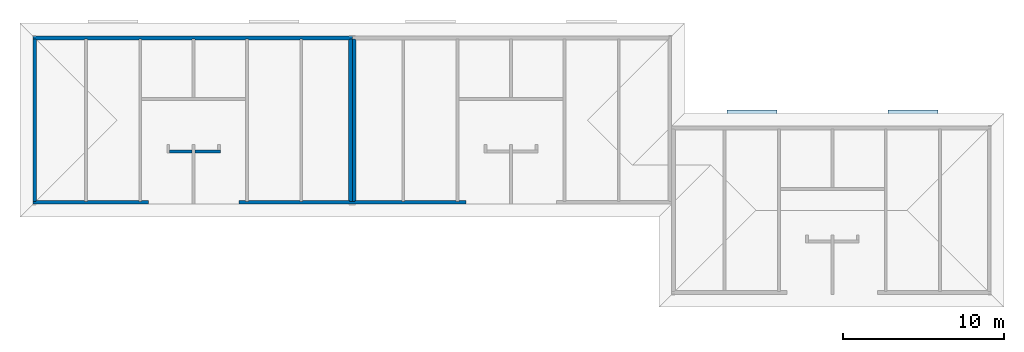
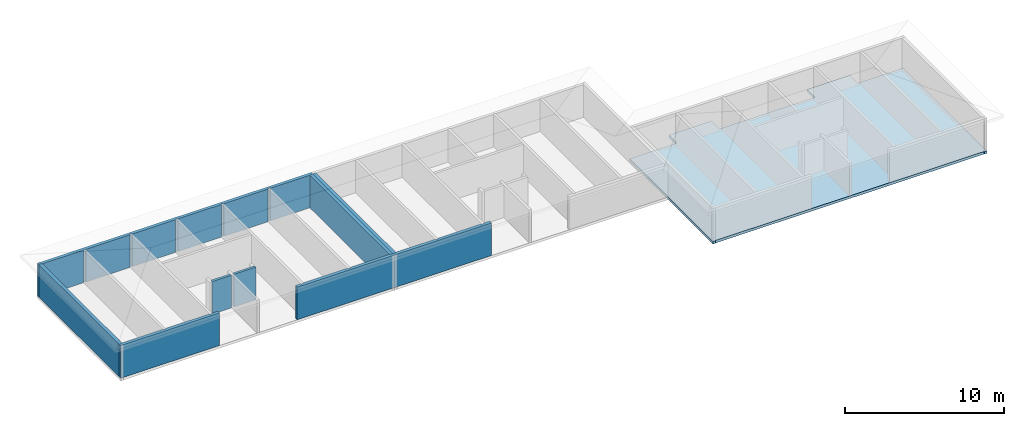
# One storey, part 8 of 10: 8 walls, 1 slab.
"""IFC2X3 building model written with IfcOpenShell, lengths in metres."""

from ifc_helpers import new_model, si_unit, frame, origin, place, context, project, spatial, faceted_brep, element, save


model = new_model("IFC2X3")

# Units and contexts
model_context = context("Model", 3, precision=1e-06, world=origin())
ifc_project = project(units=[si_unit("LENGTHUNIT", "METRE"), si_unit("PLANEANGLEUNIT", "RADIAN")], contexts=[model_context])

# Site, building, storey
site = spatial("IfcSite", under=ifc_project, CompositionType="ELEMENT")
building = spatial("IfcBuilding", under=site, CompositionType="ELEMENT")
storey = spatial("IfcBuildingStorey", under=building, Name="r+3", CompositionType="ELEMENT", Elevation=8.1)

# Slab
placement = place(None, origin())
slab_placement = place(placement, frame((39.69999999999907, -5.599999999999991, 7.9), z_axis=(0.0, 0.0, 1.0), x_axis=(1.0, 0.0, 0.0)))
element("IfcSlab", 1, at=slab_placement, inside=storey, PredefinedType="USERDEFINED", context=model_context, shape_type="Brep", body=[
    faceted_brep([(0.18, 10.47007776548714, 0.2), (3.430000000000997, 10.470077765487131, 0.2), (3.430000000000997, 10.470077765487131, 0.0), (0.18, 10.47007776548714, 0.0), (3.430000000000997, 10.470077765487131, 0.2), (3.430000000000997, 11.47007775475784, 0.2), (3.430000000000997, 11.47007775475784, 0.0), (3.430000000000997, 10.470077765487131, 0.0), (3.430000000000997, 11.47007775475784, 0.2), (6.530000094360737, 11.47007760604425, 0.2), (6.530000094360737, 11.47007760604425, 0.0), (3.430000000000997, 11.47007775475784, 0.0), (6.530000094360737, 11.47007760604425, 0.2), (6.530000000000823, 10.47007768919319, 0.2), (6.530000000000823, 10.47007768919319, 0.0), (6.530000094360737, 11.47007760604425, 0.0), (6.530000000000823, 10.47007768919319, 0.2), (13.44000000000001, 10.47007775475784, 0.2), (13.44000000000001, 10.47007775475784, 0.0), (6.530000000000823, 10.47007768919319, 0.0), (13.44000000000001, 10.47007775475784, 0.2), (13.439598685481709, 11.47007760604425, 0.2), (13.439598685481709, 11.47007760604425, 0.0), (13.44000000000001, 10.47007775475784, 0.0), (13.439598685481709, 11.47007760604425, 0.2), (16.539598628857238, 11.47007760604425, 0.2), (16.539598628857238, 11.47007760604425, 0.0), (13.439598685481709, 11.47007760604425, 0.0), (16.539598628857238, 11.47007760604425, 0.2), (16.53999999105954, 10.47007768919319, 0.2), (16.53999999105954, 10.47007768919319, 0.0), (16.539598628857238, 11.47007760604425, 0.0), (16.53999999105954, 10.47007768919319, 0.2), (19.669999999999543, 10.470077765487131, 0.2), (19.669999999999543, 10.470077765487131, 0.0), (16.53999999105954, 10.47007768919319, 0.0), (19.669999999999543, 10.470077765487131, 0.2), (19.669999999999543, 10.49007776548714, 0.2), (19.669999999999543, 10.49007776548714, 0.0), (19.669999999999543, 10.470077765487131, 0.0), (19.669999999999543, 10.49007776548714, 0.2), (19.849999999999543, 10.49007776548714, 0.2), (19.849999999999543, 10.49007776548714, 0.0), (19.669999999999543, 10.49007776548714, 0.0), (19.849999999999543, 10.49007776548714, 0.2), (19.849999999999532, 2e-15, 0.2), (19.849999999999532, 2e-15, 0.0), (19.849999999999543, 10.49007776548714, 0.0), (19.849999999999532, 2e-15, 0.2), (19.669999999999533, 2e-15, 0.2), (19.669999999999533, 2e-15, 0.0), (19.849999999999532, 2e-15, 0.0), (19.669999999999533, 2e-15, 0.2), (19.669999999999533, 0.02016279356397, 0.2), (19.669999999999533, 0.02016279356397, 0.0), (19.669999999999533, 2e-15, 0.0), (19.669999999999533, 0.02016279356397, 0.2), (13.04500000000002, 0.02016279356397, 0.2), (13.04500000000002, 0.02016279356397, 0.0), (19.669999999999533, 0.02016279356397, 0.0), (13.04500000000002, 0.02016279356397, 0.2), (6.925000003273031, 0.020077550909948, 0.2), (6.925000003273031, 0.020077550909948, 0.0), (13.04500000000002, 0.02016279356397, 0.0), (6.925000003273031, 0.020077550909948, 0.2), (0.18, 0.020077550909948, 0.2), (0.18, 0.020077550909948, 0.0), (6.925000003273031, 0.020077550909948, 0.0), (0.18, 0.020077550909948, 0.2), (0.18, 0.0, 0.2), (0.18, 0.0, 0.0), (0.18, 0.020077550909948, 0.0), (0.18, 0.0, 0.2), (0.0, 0.0, 0.2), (0.0, 0.0, 0.0), (0.18, 0.0, 0.0), (0.0, 0.0, 0.2), (7e-15, 10.47007776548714, 0.2), (7e-15, 10.47007776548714, 0.0), (0.0, 0.0, 0.0), (7e-15, 10.47007776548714, 0.2), (0.18, 10.47007776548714, 0.2), (0.18, 10.47007776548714, 0.0), (7e-15, 10.47007776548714, 0.0), (0.18, 10.47007776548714, 0.2), (7e-15, 10.47007776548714, 0.2), (0.0, 0.0, 0.2), (0.18, 0.0, 0.2), (0.18, 0.020077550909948, 0.2), (6.925000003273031, 0.020077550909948, 0.2), (13.04500000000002, 0.02016279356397, 0.2), (19.669999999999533, 0.02016279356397, 0.2), (19.669999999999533, 2e-15, 0.2), (19.849999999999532, 2e-15, 0.2), (19.849999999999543, 10.49007776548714, 0.2), (19.669999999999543, 10.49007776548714, 0.2), (19.669999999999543, 10.470077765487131, 0.2), (16.53999999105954, 10.47007768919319, 0.2), (16.539598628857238, 11.47007760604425, 0.2), (13.439598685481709, 11.47007760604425, 0.2), (13.44000000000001, 10.47007775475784, 0.2), (6.530000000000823, 10.47007768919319, 0.2), (6.530000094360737, 11.47007760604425, 0.2), (3.430000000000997, 11.47007775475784, 0.2), (3.430000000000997, 10.470077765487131, 0.2), (0.18, 10.47007776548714, 0.0), (3.430000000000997, 10.470077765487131, 0.0), (3.430000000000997, 11.47007775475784, 0.0), (6.530000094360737, 11.47007760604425, 0.0), (6.530000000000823, 10.47007768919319, 0.0), (13.44000000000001, 10.47007775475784, 0.0), (13.439598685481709, 11.47007760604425, 0.0), (16.539598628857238, 11.47007760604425, 0.0), (16.53999999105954, 10.47007768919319, 0.0), (19.669999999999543, 10.470077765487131, 0.0), (19.669999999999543, 10.49007776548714, 0.0), (19.849999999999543, 10.49007776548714, 0.0), (19.849999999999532, 2e-15, 0.0), (19.669999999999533, 2e-15, 0.0), (19.669999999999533, 0.02016279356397, 0.0), (13.04500000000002, 0.02016279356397, 0.0), (6.925000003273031, 0.020077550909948, 0.0), (0.18, 0.020077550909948, 0.0), (0.18, 0.0, 0.0), (0.0, 0.0, 0.0), (7e-15, 10.47007776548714, 0.0)], [[[0, 1, 2, 3]], [[4, 5, 6, 7]], [[8, 9, 10, 11]], [[12, 13, 14, 15]], [[16, 17, 18, 19]], [[20, 21, 22, 23]], [[24, 25, 26, 27]], [[28, 29, 30, 31]], [[32, 33, 34, 35]], [[36, 37, 38, 39]], [[40, 41, 42, 43]], [[44, 45, 46, 47]], [[48, 49, 50, 51]], [[52, 53, 54, 55]], [[56, 57, 58, 59]], [[60, 61, 62, 63]], [[64, 65, 66, 67]], [[68, 69, 70, 71]], [[72, 73, 74, 75]], [[76, 77, 78, 79]], [[80, 81, 82, 83]], [[84, 85, 86, 87, 88, 89, 90, 91, 92, 93, 94, 95, 96, 97, 98, 99, 100, 101, 102, 103, 104]], [[105, 106, 107, 108, 109, 110, 111, 112, 113, 114, 115, 116, 117, 118, 119, 120, 121, 122, 123, 124, 125]]]),
])

# Walls
wall_1_placement = place(placement, frame((-6e-15, 0.020077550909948, 8.1), z_axis=(0.0, 0.0, 1.0), x_axis=(1.0, 0.0, 0.0)))
element("IfcWall", 2, at=wall_1_placement, inside=storey, context=model_context, shape_type="Brep", body=[
    faceted_brep([(7.175000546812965, 0.0, 2.5), (0.0, 0.0, 2.5), (0.0, 0.0, 0.0), (7.175000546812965, 0.0, 0.0), (0.0, 0.0, 2.5), (0.0, 0.18, 2.5), (0.0, 0.18, 0.0), (0.0, 0.0, 0.0), (0.0, 0.18, 2.5), (0.18, 0.18, 2.5), (0.18, 0.18, 0.0), (0.0, 0.18, 0.0), (0.18, 0.18, 2.5), (0.18, 0.22, 2.5), (0.18, 0.22, 0.0), (0.18, 0.18, 0.0), (0.18, 0.22, 2.5), (0.22, 0.22, 2.5), (0.22, 0.22, 0.0), (0.18, 0.22, 0.0), (0.22, 0.22, 2.5), (0.22, 0.23, 2.5), (0.22, 0.23, 0.0), (0.22, 0.22, 0.0), (0.22, 0.23, 2.5), (3.200000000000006, 0.23, 2.5), (3.200000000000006, 0.23, 0.0), (0.22, 0.23, 0.0), (3.200000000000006, 0.23, 2.5), (3.200000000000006, 0.18, 2.5), (3.200000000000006, 0.18, 0.0), (3.200000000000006, 0.23, 0.0), (3.200000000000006, 0.18, 2.5), (3.380000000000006, 0.18, 2.5), (3.380000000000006, 0.18, 0.0), (3.200000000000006, 0.18, 0.0), (3.380000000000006, 0.18, 2.5), (3.380000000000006, 0.23, 2.5), (3.380000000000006, 0.23, 0.0), (3.380000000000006, 0.18, 0.0), (3.380000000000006, 0.23, 2.5), (6.580000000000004, 0.23, 2.5), (6.580000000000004, 0.23, 0.0), (3.380000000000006, 0.23, 0.0), (6.580000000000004, 0.23, 2.5), (6.580000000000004, 0.18, 2.5), (6.580000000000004, 0.18, 0.0), (6.580000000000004, 0.23, 0.0), (6.580000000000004, 0.18, 2.5), (6.760000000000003, 0.18, 2.5), (6.760000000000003, 0.18, 0.0), (6.580000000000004, 0.18, 0.0), (6.760000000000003, 0.18, 2.5), (6.760000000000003, 0.23, 2.5), (6.760000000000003, 0.23, 0.0), (6.760000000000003, 0.18, 0.0), (6.760000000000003, 0.23, 2.5), (7.175000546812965, 0.23, 2.5), (7.175000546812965, 0.23, 0.0), (6.760000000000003, 0.23, 0.0), (7.175000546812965, 0.23, 2.5), (7.175000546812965, 0.0, 2.5), (7.175000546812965, 0.0, 0.0), (7.175000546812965, 0.23, 0.0), (7.175000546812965, 0.0, 2.5), (7.175000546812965, 0.23, 2.5), (6.760000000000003, 0.23, 2.5), (6.760000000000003, 0.18, 2.5), (6.580000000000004, 0.18, 2.5), (6.580000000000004, 0.23, 2.5), (3.380000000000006, 0.23, 2.5), (3.380000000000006, 0.18, 2.5), (3.200000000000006, 0.18, 2.5), (3.200000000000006, 0.23, 2.5), (0.22, 0.23, 2.5), (0.22, 0.22, 2.5), (0.18, 0.22, 2.5), (0.18, 0.18, 2.5), (0.0, 0.18, 2.5), (0.0, 0.0, 2.5), (7.175000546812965, 0.0, 0.0), (0.0, 0.0, 0.0), (0.0, 0.18, 0.0), (0.18, 0.18, 0.0), (0.18, 0.22, 0.0), (0.22, 0.22, 0.0), (0.22, 0.23, 0.0), (3.200000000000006, 0.23, 0.0), (3.200000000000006, 0.18, 0.0), (3.380000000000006, 0.18, 0.0), (3.380000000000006, 0.23, 0.0), (6.580000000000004, 0.23, 0.0), (6.580000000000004, 0.18, 0.0), (6.760000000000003, 0.18, 0.0), (6.760000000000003, 0.23, 0.0), (7.175000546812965, 0.23, 0.0)], [[[0, 1, 2, 3]], [[4, 5, 6, 7]], [[8, 9, 10, 11]], [[12, 13, 14, 15]], [[16, 17, 18, 19]], [[20, 21, 22, 23]], [[24, 25, 26, 27]], [[28, 29, 30, 31]], [[32, 33, 34, 35]], [[36, 37, 38, 39]], [[40, 41, 42, 43]], [[44, 45, 46, 47]], [[48, 49, 50, 51]], [[52, 53, 54, 55]], [[56, 57, 58, 59]], [[60, 61, 62, 63]], [[64, 65, 66, 67, 68, 69, 70, 71, 72, 73, 74, 75, 76, 77, 78, 79]], [[80, 81, 82, 83, 84, 85, 86, 87, 88, 89, 90, 91, 92, 93, 94, 95]]]),
])
wall_2_placement = place(placement, frame((-4e-15, 10.29007776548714, 8.1), z_axis=(0.0, 0.0, 1.0), x_axis=(0.0, -1.0, 0.0)))
element("IfcWall", 3, at=wall_2_placement, inside=storey, context=model_context, shape_type="Brep", body=[
    faceted_brep([(0.04, 0.18, 2.5), (0.04, 0.22, 2.5), (0.04, 0.22, 0.0), (0.04, 0.18, 0.0), (0.04, 0.22, 2.5), (0.05, 0.22, 2.5), (0.05, 0.22, 0.0), (0.04, 0.22, 0.0), (0.05, 0.22, 2.5), (0.05, 0.23, 2.5), (0.05, 0.23, 0.0), (0.05, 0.22, 0.0), (0.05, 0.23, 2.5), (10.04000021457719, 0.23, 2.5), (10.04000021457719, 0.23, 0.0), (0.05, 0.23, 0.0), (10.04000021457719, 0.23, 2.5), (10.04000021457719, 0.22, 2.5), (10.04000021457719, 0.22, 0.0), (10.04000021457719, 0.23, 0.0), (10.04000021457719, 0.22, 2.5), (10.05000021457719, 0.22, 2.5), (10.05000021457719, 0.22, 0.0), (10.04000021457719, 0.22, 0.0), (10.05000021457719, 0.22, 2.5), (10.05000021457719, 0.18, 2.5), (10.05000021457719, 0.18, 0.0), (10.05000021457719, 0.22, 0.0), (10.05000021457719, 0.18, 2.5), (10.090000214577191, 0.18, 2.5), (10.090000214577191, 0.18, 0.0), (10.05000021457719, 0.18, 0.0), (10.090000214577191, 0.18, 2.5), (10.090000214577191, 0.0, 2.5), (10.090000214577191, 0.0, 0.0), (10.090000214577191, 0.18, 0.0), (10.090000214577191, 0.0, 2.5), (0.0, 0.0, 2.5), (0.0, 0.0, 0.0), (10.090000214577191, 0.0, 0.0), (0.0, 0.0, 2.5), (0.0, 0.18, 2.5), (0.0, 0.18, 0.0), (0.0, 0.0, 0.0), (0.0, 0.18, 2.5), (0.04, 0.18, 2.5), (0.04, 0.18, 0.0), (0.0, 0.18, 0.0), (0.04, 0.18, 2.5), (0.0, 0.18, 2.5), (0.0, 0.0, 2.5), (10.090000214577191, 0.0, 2.5), (10.090000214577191, 0.18, 2.5), (10.05000021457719, 0.18, 2.5), (10.05000021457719, 0.22, 2.5), (10.04000021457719, 0.22, 2.5), (10.04000021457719, 0.23, 2.5), (0.05, 0.23, 2.5), (0.05, 0.22, 2.5), (0.04, 0.22, 2.5), (0.04, 0.18, 0.0), (0.04, 0.22, 0.0), (0.05, 0.22, 0.0), (0.05, 0.23, 0.0), (10.04000021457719, 0.23, 0.0), (10.04000021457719, 0.22, 0.0), (10.05000021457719, 0.22, 0.0), (10.05000021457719, 0.18, 0.0), (10.090000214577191, 0.18, 0.0), (10.090000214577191, 0.0, 0.0), (0.0, 0.0, 0.0), (0.0, 0.18, 0.0)], [[[0, 1, 2, 3]], [[4, 5, 6, 7]], [[8, 9, 10, 11]], [[12, 13, 14, 15]], [[16, 17, 18, 19]], [[20, 21, 22, 23]], [[24, 25, 26, 27]], [[28, 29, 30, 31]], [[32, 33, 34, 35]], [[36, 37, 38, 39]], [[40, 41, 42, 43]], [[44, 45, 46, 47]], [[48, 49, 50, 51, 52, 53, 54, 55, 56, 57, 58, 59]], [[60, 61, 62, 63, 64, 65, 66, 67, 68, 69, 70, 71]]]),
])
wall_3_placement = place(placement, frame((19.849999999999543, 10.290077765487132, 8.1), z_axis=(0.0, 0.0, 1.0), x_axis=(0.0, -1.0, 0.0)))
element("IfcWall", 4, at=wall_3_placement, inside=storey, context=model_context, shape_type="Brep", body=[
    faceted_brep([(0.04, 0.18, 2.5), (0.04, 0.22, 2.5), (0.04, 0.22, 0.0), (0.04, 0.18, 0.0), (0.04, 0.22, 2.5), (0.05, 0.22, 2.5), (0.05, 0.22, 0.0), (0.04, 0.22, 0.0), (0.05, 0.22, 2.5), (0.05, 0.23, 2.5), (0.05, 0.23, 0.0), (0.05, 0.22, 0.0), (0.05, 0.23, 2.5), (10.03991497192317, 0.23, 2.5), (10.03991497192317, 0.23, 0.0), (0.05, 0.23, 0.0), (10.03991497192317, 0.23, 2.5), (10.03991497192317, 0.22, 2.5), (10.03991497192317, 0.22, 0.0), (10.03991497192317, 0.23, 0.0), (10.03991497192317, 0.22, 2.5), (10.04991497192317, 0.22, 2.5), (10.04991497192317, 0.22, 0.0), (10.03991497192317, 0.22, 0.0), (10.04991497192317, 0.22, 2.5), (10.04991497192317, 0.18, 2.5), (10.04991497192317, 0.18, 0.0), (10.04991497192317, 0.22, 0.0), (10.04991497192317, 0.18, 2.5), (10.08991497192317, 0.18, 2.5), (10.08991497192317, 0.18, 0.0), (10.04991497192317, 0.18, 0.0), (10.08991497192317, 0.18, 2.5), (10.08991497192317, 0.0, 2.5), (10.08991497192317, 0.0, 0.0), (10.08991497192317, 0.18, 0.0), (10.08991497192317, 0.0, 2.5), (0.0, 0.0, 2.5), (0.0, 0.0, 0.0), (10.08991497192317, 0.0, 0.0), (0.0, 0.0, 2.5), (0.0, 0.18, 2.5), (0.0, 0.18, 0.0), (0.0, 0.0, 0.0), (0.0, 0.18, 2.5), (0.04, 0.18, 2.5), (0.04, 0.18, 0.0), (0.0, 0.18, 0.0), (0.04, 0.18, 2.5), (0.0, 0.18, 2.5), (0.0, 0.0, 2.5), (10.08991497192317, 0.0, 2.5), (10.08991497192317, 0.18, 2.5), (10.04991497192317, 0.18, 2.5), (10.04991497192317, 0.22, 2.5), (10.03991497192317, 0.22, 2.5), (10.03991497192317, 0.23, 2.5), (0.05, 0.23, 2.5), (0.05, 0.22, 2.5), (0.04, 0.22, 2.5), (0.04, 0.18, 0.0), (0.04, 0.22, 0.0), (0.05, 0.22, 0.0), (0.05, 0.23, 0.0), (10.03991497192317, 0.23, 0.0), (10.03991497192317, 0.22, 0.0), (10.04991497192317, 0.22, 0.0), (10.04991497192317, 0.18, 0.0), (10.08991497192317, 0.18, 0.0), (10.08991497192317, 0.0, 0.0), (0.0, 0.0, 0.0), (0.0, 0.18, 0.0)], [[[0, 1, 2, 3]], [[4, 5, 6, 7]], [[8, 9, 10, 11]], [[12, 13, 14, 15]], [[16, 17, 18, 19]], [[20, 21, 22, 23]], [[24, 25, 26, 27]], [[28, 29, 30, 31]], [[32, 33, 34, 35]], [[36, 37, 38, 39]], [[40, 41, 42, 43]], [[44, 45, 46, 47]], [[48, 49, 50, 51, 52, 53, 54, 55, 56, 57, 58, 59]], [[60, 61, 62, 63, 64, 65, 66, 67, 68, 69, 70, 71]]]),
])
wall_4_placement = place(placement, frame((12.795000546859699, 0.02016279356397, 8.1), z_axis=(0.0, 0.0, 1.0), x_axis=(1.0, 0.0, 0.0)))
element("IfcWall", 5, at=wall_4_placement, inside=storey, context=model_context, shape_type="Brep", body=[
    faceted_brep([(10.13499945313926, 0.179914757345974, 2.5), (10.31499945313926, 0.179914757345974, 2.5), (10.31499945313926, 0.179914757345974, 0.0), (10.13499945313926, 0.179914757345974, 0.0), (10.31499945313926, 0.179914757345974, 2.5), (10.31499945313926, 0.23, 2.5), (10.31499945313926, 0.23, 0.0), (10.31499945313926, 0.179914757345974, 0.0), (10.31499945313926, 0.23, 2.5), (13.51499951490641, 0.23, 2.5), (13.51499951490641, 0.23, 0.0), (10.31499945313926, 0.23, 0.0), (13.51499951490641, 0.23, 2.5), (13.51499951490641, 0.179914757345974, 2.5), (13.51499951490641, 0.179914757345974, 0.0), (13.51499951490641, 0.23, 0.0), (13.51499951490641, 0.179914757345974, 2.5), (13.69499951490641, 0.179914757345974, 2.5), (13.69499951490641, 0.179914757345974, 0.0), (13.51499951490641, 0.179914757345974, 0.0), (13.69499951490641, 0.179914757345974, 2.5), (13.69499951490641, 0.23, 2.5), (13.69499951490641, 0.23, 0.0), (13.69499951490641, 0.179914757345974, 0.0), (13.69499951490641, 0.23, 2.5), (14.109999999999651, 0.23, 2.5), (14.109999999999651, 0.23, 0.0), (13.69499951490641, 0.23, 0.0), (14.109999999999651, 0.23, 2.5), (14.109999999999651, 0.0, 2.5), (14.109999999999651, 0.0, 0.0), (14.109999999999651, 0.23, 0.0), (14.109999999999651, 0.0, 2.5), (0.0, 0.0, 2.5), (0.0, 0.0, 0.0), (14.109999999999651, 0.0, 0.0), (0.0, 0.0, 2.5), (0.0, 0.23, 2.5), (0.0, 0.23, 0.0), (0.0, 0.0, 0.0), (0.0, 0.23, 2.5), (0.414999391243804, 0.23, 2.5), (0.414999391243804, 0.23, 0.0), (0.0, 0.23, 0.0), (0.414999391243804, 0.23, 2.5), (0.414999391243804, 0.179914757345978, 2.5), (0.414999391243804, 0.179914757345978, 0.0), (0.414999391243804, 0.23, 0.0), (0.414999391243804, 0.179914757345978, 2.5), (0.594999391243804, 0.179914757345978, 2.5), (0.594999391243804, 0.179914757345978, 0.0), (0.414999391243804, 0.179914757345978, 0.0), (0.594999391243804, 0.179914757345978, 2.5), (0.594999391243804, 0.23, 2.5), (0.594999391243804, 0.23, 0.0), (0.594999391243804, 0.179914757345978, 0.0), (0.594999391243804, 0.23, 2.5), (3.794999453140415, 0.23, 2.5), (3.794999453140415, 0.23, 0.0), (0.594999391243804, 0.23, 0.0), (3.794999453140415, 0.23, 2.5), (3.794999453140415, 0.179914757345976, 2.5), (3.794999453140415, 0.179914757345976, 0.0), (3.794999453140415, 0.23, 0.0), (3.794999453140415, 0.179914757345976, 2.5), (3.974999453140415, 0.179914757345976, 2.5), (3.974999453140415, 0.179914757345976, 0.0), (3.794999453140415, 0.179914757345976, 0.0), (3.974999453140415, 0.179914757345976, 2.5), (3.974999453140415, 0.23, 2.5), (3.974999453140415, 0.23, 0.0), (3.974999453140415, 0.179914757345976, 0.0), (3.974999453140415, 0.23, 2.5), (6.834999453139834, 0.23, 2.5), (6.834999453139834, 0.23, 0.0), (3.974999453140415, 0.23, 0.0), (6.834999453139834, 0.23, 2.5), (6.834999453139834, 0.22, 2.5), (6.834999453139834, 0.22, 0.0), (6.834999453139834, 0.23, 0.0), (6.834999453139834, 0.22, 2.5), (6.874999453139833, 0.22, 2.5), (6.874999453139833, 0.22, 0.0), (6.834999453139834, 0.22, 0.0), (6.874999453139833, 0.22, 2.5), (6.874999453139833, 0.18, 2.5), (6.874999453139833, 0.18, 0.0), (6.874999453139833, 0.22, 0.0), (6.874999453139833, 0.18, 2.5), (7.234999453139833, 0.18, 2.5), (7.234999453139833, 0.18, 0.0), (6.874999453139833, 0.18, 0.0), (7.234999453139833, 0.18, 2.5), (7.234999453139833, 0.22, 2.5), (7.234999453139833, 0.22, 0.0), (7.234999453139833, 0.18, 0.0), (7.234999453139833, 0.22, 2.5), (7.274999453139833, 0.22, 2.5), (7.274999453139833, 0.22, 0.0), (7.234999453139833, 0.22, 0.0), (7.274999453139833, 0.22, 2.5), (7.274999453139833, 0.23, 2.5), (7.274999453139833, 0.23, 0.0), (7.274999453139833, 0.22, 0.0), (7.274999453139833, 0.23, 2.5), (10.13499945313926, 0.23, 2.5), (10.13499945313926, 0.23, 0.0), (7.274999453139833, 0.23, 0.0), (10.13499945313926, 0.23, 2.5), (10.13499945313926, 0.179914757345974, 2.5), (10.13499945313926, 0.179914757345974, 0.0), (10.13499945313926, 0.23, 0.0), (10.13499945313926, 0.179914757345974, 2.5), (10.13499945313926, 0.23, 2.5), (7.274999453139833, 0.23, 2.5), (7.274999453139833, 0.22, 2.5), (7.234999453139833, 0.22, 2.5), (7.234999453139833, 0.18, 2.5), (6.874999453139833, 0.18, 2.5), (6.874999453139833, 0.22, 2.5), (6.834999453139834, 0.22, 2.5), (6.834999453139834, 0.23, 2.5), (3.974999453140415, 0.23, 2.5), (3.974999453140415, 0.179914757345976, 2.5), (3.794999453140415, 0.179914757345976, 2.5), (3.794999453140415, 0.23, 2.5), (0.594999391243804, 0.23, 2.5), (0.594999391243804, 0.179914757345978, 2.5), (0.414999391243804, 0.179914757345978, 2.5), (0.414999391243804, 0.23, 2.5), (0.0, 0.23, 2.5), (0.0, 0.0, 2.5), (14.109999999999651, 0.0, 2.5), (14.109999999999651, 0.23, 2.5), (13.69499951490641, 0.23, 2.5), (13.69499951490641, 0.179914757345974, 2.5), (13.51499951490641, 0.179914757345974, 2.5), (13.51499951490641, 0.23, 2.5), (10.31499945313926, 0.23, 2.5), (10.31499945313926, 0.179914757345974, 2.5), (10.13499945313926, 0.179914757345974, 0.0), (10.31499945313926, 0.179914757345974, 0.0), (10.31499945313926, 0.23, 0.0), (13.51499951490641, 0.23, 0.0), (13.51499951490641, 0.179914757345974, 0.0), (13.69499951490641, 0.179914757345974, 0.0), (13.69499951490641, 0.23, 0.0), (14.109999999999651, 0.23, 0.0), (14.109999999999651, 0.0, 0.0), (0.0, 0.0, 0.0), (0.0, 0.23, 0.0), (0.414999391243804, 0.23, 0.0), (0.414999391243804, 0.179914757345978, 0.0), (0.594999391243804, 0.179914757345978, 0.0), (0.594999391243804, 0.23, 0.0), (3.794999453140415, 0.23, 0.0), (3.794999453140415, 0.179914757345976, 0.0), (3.974999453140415, 0.179914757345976, 0.0), (3.974999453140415, 0.23, 0.0), (6.834999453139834, 0.23, 0.0), (6.834999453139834, 0.22, 0.0), (6.874999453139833, 0.22, 0.0), (6.874999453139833, 0.18, 0.0), (7.234999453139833, 0.18, 0.0), (7.234999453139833, 0.22, 0.0), (7.274999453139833, 0.22, 0.0), (7.274999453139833, 0.23, 0.0), (10.13499945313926, 0.23, 0.0)], [[[0, 1, 2, 3]], [[4, 5, 6, 7]], [[8, 9, 10, 11]], [[12, 13, 14, 15]], [[16, 17, 18, 19]], [[20, 21, 22, 23]], [[24, 25, 26, 27]], [[28, 29, 30, 31]], [[32, 33, 34, 35]], [[36, 37, 38, 39]], [[40, 41, 42, 43]], [[44, 45, 46, 47]], [[48, 49, 50, 51]], [[52, 53, 54, 55]], [[56, 57, 58, 59]], [[60, 61, 62, 63]], [[64, 65, 66, 67]], [[68, 69, 70, 71]], [[72, 73, 74, 75]], [[76, 77, 78, 79]], [[80, 81, 82, 83]], [[84, 85, 86, 87]], [[88, 89, 90, 91]], [[92, 93, 94, 95]], [[96, 97, 98, 99]], [[100, 101, 102, 103]], [[104, 105, 106, 107]], [[108, 109, 110, 111]], [[112, 113, 114, 115, 116, 117, 118, 119, 120, 121, 122, 123, 124, 125, 126, 127, 128, 129, 130, 131, 132, 133, 134, 135, 136, 137, 138, 139]], [[140, 141, 142, 143, 144, 145, 146, 147, 148, 149, 150, 151, 152, 153, 154, 155, 156, 157, 158, 159, 160, 161, 162, 163, 164, 165, 166, 167]]]),
])
wall_5_placement = place(placement, frame((19.849999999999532, 0.20016279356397, 8.1), z_axis=(0.0, 0.0, 1.0), x_axis=(0.0, 1.0, 0.0)))
element("IfcWall", 6, at=wall_5_placement, inside=storey, context=model_context, shape_type="Brep", body=[
    faceted_brep([(0.04, 0.18, 2.5), (0.04, 0.22, 2.5), (0.04, 0.22, 0.0), (0.04, 0.18, 0.0), (0.04, 0.22, 2.5), (0.05, 0.22, 2.5), (0.05, 0.22, 0.0), (0.04, 0.22, 0.0), (0.05, 0.22, 2.5), (0.05, 0.23, 2.5), (0.05, 0.23, 0.0), (0.05, 0.22, 0.0), (0.05, 0.23, 2.5), (10.03991497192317, 0.23, 2.5), (10.03991497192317, 0.23, 0.0), (0.05, 0.23, 0.0), (10.03991497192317, 0.23, 2.5), (10.03991497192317, 0.22, 2.5), (10.03991497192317, 0.22, 0.0), (10.03991497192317, 0.23, 0.0), (10.03991497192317, 0.22, 2.5), (10.04991497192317, 0.22, 2.5), (10.04991497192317, 0.22, 0.0), (10.03991497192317, 0.22, 0.0), (10.04991497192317, 0.22, 2.5), (10.04991497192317, 0.18, 2.5), (10.04991497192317, 0.18, 0.0), (10.04991497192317, 0.22, 0.0), (10.04991497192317, 0.18, 2.5), (10.08991497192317, 0.18, 2.5), (10.08991497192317, 0.18, 0.0), (10.04991497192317, 0.18, 0.0), (10.08991497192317, 0.18, 2.5), (10.08991497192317, 0.0, 2.5), (10.08991497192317, 0.0, 0.0), (10.08991497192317, 0.18, 0.0), (10.08991497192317, 0.0, 2.5), (0.0, 0.0, 2.5), (0.0, 0.0, 0.0), (10.08991497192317, 0.0, 0.0), (0.0, 0.0, 2.5), (0.0, 0.18, 2.5), (0.0, 0.18, 0.0), (0.0, 0.0, 0.0), (0.0, 0.18, 2.5), (0.04, 0.18, 2.5), (0.04, 0.18, 0.0), (0.0, 0.18, 0.0), (0.04, 0.18, 2.5), (0.0, 0.18, 2.5), (0.0, 0.0, 2.5), (10.08991497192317, 0.0, 2.5), (10.08991497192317, 0.18, 2.5), (10.04991497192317, 0.18, 2.5), (10.04991497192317, 0.22, 2.5), (10.03991497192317, 0.22, 2.5), (10.03991497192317, 0.23, 2.5), (0.05, 0.23, 2.5), (0.05, 0.22, 2.5), (0.04, 0.22, 2.5), (0.04, 0.18, 0.0), (0.04, 0.22, 0.0), (0.05, 0.22, 0.0), (0.05, 0.23, 0.0), (10.03991497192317, 0.23, 0.0), (10.03991497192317, 0.22, 0.0), (10.04991497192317, 0.22, 0.0), (10.04991497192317, 0.18, 0.0), (10.08991497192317, 0.18, 0.0), (10.08991497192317, 0.0, 0.0), (0.0, 0.0, 0.0), (0.0, 0.18, 0.0)], [[[0, 1, 2, 3]], [[4, 5, 6, 7]], [[8, 9, 10, 11]], [[12, 13, 14, 15]], [[16, 17, 18, 19]], [[20, 21, 22, 23]], [[24, 25, 26, 27]], [[28, 29, 30, 31]], [[32, 33, 34, 35]], [[36, 37, 38, 39]], [[40, 41, 42, 43]], [[44, 45, 46, 47]], [[48, 49, 50, 51, 52, 53, 54, 55, 56, 57, 58, 59]], [[60, 61, 62, 63, 64, 65, 66, 67, 68, 69, 70, 71]]]),
])
wall_6_placement = place(placement, frame((19.849999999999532, 10.47007776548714, 8.1), z_axis=(0.0, 0.0, 1.0), x_axis=(-1.0, 0.0, 0.0)))
element("IfcWall", 7, at=wall_6_placement, inside=storey, context=model_context, shape_type="Brep", body=[
    faceted_brep([(19.62999999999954, 0.23, 2.5), (19.62999999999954, 0.22, 2.5), (19.62999999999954, 0.22, 0.0), (19.62999999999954, 0.23, 0.0), (19.62999999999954, 0.22, 2.5), (19.669999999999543, 0.22, 2.5), (19.669999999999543, 0.22, 0.0), (19.62999999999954, 0.22, 0.0), (19.669999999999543, 0.22, 2.5), (19.669999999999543, 0.18, 2.5), (19.669999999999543, 0.18, 0.0), (19.669999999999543, 0.22, 0.0), (19.669999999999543, 0.18, 2.5), (19.849999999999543, 0.18, 2.5), (19.849999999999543, 0.18, 0.0), (19.669999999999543, 0.18, 0.0), (19.849999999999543, 0.18, 2.5), (19.849999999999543, 0.0, 2.5), (19.849999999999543, 0.0, 0.0), (19.849999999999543, 0.18, 0.0), (19.849999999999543, 0.0, 2.5), (0.0, 0.0, 2.5), (0.0, 0.0, 0.0), (19.849999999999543, 0.0, 0.0), (0.0, 0.0, 2.5), (0.0, 0.18, 2.5), (0.0, 0.18, 0.0), (0.0, 0.0, 0.0), (0.0, 0.18, 2.5), (0.18, 0.18, 2.5), (0.18, 0.18, 0.0), (0.0, 0.18, 0.0), (0.18, 0.18, 2.5), (0.18, 0.22, 2.5), (0.18, 0.22, 0.0), (0.18, 0.18, 0.0), (0.18, 0.22, 2.5), (0.22, 0.22, 2.5), (0.22, 0.22, 0.0), (0.18, 0.22, 0.0), (0.22, 0.22, 2.5), (0.22, 0.23, 2.5), (0.22, 0.23, 0.0), (0.22, 0.22, 0.0), (0.22, 0.23, 2.5), (3.079999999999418, 0.23, 2.5), (3.079999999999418, 0.23, 0.0), (0.22, 0.23, 0.0), (3.079999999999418, 0.23, 2.5), (3.079999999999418, 0.18, 2.5), (3.079999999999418, 0.18, 0.0), (3.079999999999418, 0.23, 0.0), (3.079999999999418, 0.18, 2.5), (3.259999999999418, 0.18, 2.5), (3.259999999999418, 0.18, 0.0), (3.079999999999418, 0.18, 0.0), (3.259999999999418, 0.18, 2.5), (3.259999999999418, 0.23, 2.5), (3.259999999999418, 0.23, 0.0), (3.259999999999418, 0.18, 0.0), (3.259999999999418, 0.23, 2.5), (6.46000006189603, 0.230000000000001, 2.5), (6.46000006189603, 0.230000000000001, 0.0), (3.259999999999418, 0.23, 0.0), (6.46000006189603, 0.230000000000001, 2.5), (6.46000006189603, 0.180000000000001, 2.5), (6.46000006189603, 0.180000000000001, 0.0), (6.46000006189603, 0.230000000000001, 0.0), (6.46000006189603, 0.180000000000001, 2.5), (6.640000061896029, 0.180000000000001, 2.5), (6.640000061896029, 0.180000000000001, 0.0), (6.46000006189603, 0.180000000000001, 0.0), (6.640000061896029, 0.180000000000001, 2.5), (6.640000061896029, 0.230000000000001, 2.5), (6.640000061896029, 0.230000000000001, 0.0), (6.640000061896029, 0.180000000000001, 0.0), (6.640000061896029, 0.230000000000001, 2.5), (9.774999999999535, 0.230000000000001, 2.5), (9.774999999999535, 0.230000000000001, 0.0), (6.640000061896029, 0.230000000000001, 0.0), (9.774999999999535, 0.230000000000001, 2.5), (9.774999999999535, 0.180000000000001, 2.5), (9.774999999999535, 0.180000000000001, 0.0), (9.774999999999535, 0.230000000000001, 0.0), (9.774999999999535, 0.180000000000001, 2.5), (9.954999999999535, 0.179999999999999, 2.5), (9.954999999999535, 0.179999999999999, 0.0), (9.774999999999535, 0.180000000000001, 0.0), (9.954999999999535, 0.179999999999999, 2.5), (9.954999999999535, 0.230000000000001, 2.5), (9.954999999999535, 0.230000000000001, 0.0), (9.954999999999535, 0.179999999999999, 0.0), (9.954999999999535, 0.230000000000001, 2.5), (13.08999999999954, 0.230000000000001, 2.5), (13.08999999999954, 0.230000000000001, 0.0), (9.954999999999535, 0.230000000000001, 0.0), (13.08999999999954, 0.230000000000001, 2.5), (13.08999999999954, 0.180000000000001, 2.5), (13.08999999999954, 0.180000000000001, 0.0), (13.08999999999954, 0.230000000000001, 0.0), (13.08999999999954, 0.180000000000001, 2.5), (13.26999999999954, 0.179999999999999, 2.5), (13.26999999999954, 0.179999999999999, 0.0), (13.08999999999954, 0.180000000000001, 0.0), (13.26999999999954, 0.179999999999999, 2.5), (13.26999999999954, 0.230000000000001, 2.5), (13.26999999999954, 0.230000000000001, 0.0), (13.26999999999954, 0.179999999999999, 0.0), (13.26999999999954, 0.230000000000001, 2.5), (16.46999999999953, 0.23, 2.5), (16.46999999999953, 0.23, 0.0), (13.26999999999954, 0.230000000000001, 0.0), (16.46999999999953, 0.23, 2.5), (16.46999999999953, 0.180000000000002, 2.5), (16.46999999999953, 0.180000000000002, 0.0), (16.46999999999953, 0.23, 0.0), (16.46999999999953, 0.180000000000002, 2.5), (16.64999999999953, 0.18, 2.5), (16.64999999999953, 0.18, 0.0), (16.46999999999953, 0.180000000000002, 0.0), (16.64999999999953, 0.18, 2.5), (16.64999999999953, 0.23, 2.5), (16.64999999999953, 0.23, 0.0), (16.64999999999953, 0.18, 0.0), (16.64999999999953, 0.23, 2.5), (19.62999999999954, 0.23, 2.5), (19.62999999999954, 0.23, 0.0), (16.64999999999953, 0.23, 0.0), (19.62999999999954, 0.23, 2.5), (16.64999999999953, 0.23, 2.5), (16.64999999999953, 0.18, 2.5), (16.46999999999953, 0.180000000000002, 2.5), (16.46999999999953, 0.23, 2.5), (13.26999999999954, 0.230000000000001, 2.5), (13.26999999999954, 0.179999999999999, 2.5), (13.08999999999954, 0.180000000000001, 2.5), (13.08999999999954, 0.230000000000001, 2.5), (9.954999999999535, 0.230000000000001, 2.5), (9.954999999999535, 0.179999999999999, 2.5), (9.774999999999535, 0.180000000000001, 2.5), (9.774999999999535, 0.230000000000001, 2.5), (6.640000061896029, 0.230000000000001, 2.5), (6.640000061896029, 0.180000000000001, 2.5), (6.46000006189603, 0.180000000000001, 2.5), (6.46000006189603, 0.230000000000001, 2.5), (3.259999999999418, 0.23, 2.5), (3.259999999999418, 0.18, 2.5), (3.079999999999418, 0.18, 2.5), (3.079999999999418, 0.23, 2.5), (0.22, 0.23, 2.5), (0.22, 0.22, 2.5), (0.18, 0.22, 2.5), (0.18, 0.18, 2.5), (0.0, 0.18, 2.5), (0.0, 0.0, 2.5), (19.849999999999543, 0.0, 2.5), (19.849999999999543, 0.18, 2.5), (19.669999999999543, 0.18, 2.5), (19.669999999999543, 0.22, 2.5), (19.62999999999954, 0.22, 2.5), (19.62999999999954, 0.23, 0.0), (19.62999999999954, 0.22, 0.0), (19.669999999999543, 0.22, 0.0), (19.669999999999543, 0.18, 0.0), (19.849999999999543, 0.18, 0.0), (19.849999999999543, 0.0, 0.0), (0.0, 0.0, 0.0), (0.0, 0.18, 0.0), (0.18, 0.18, 0.0), (0.18, 0.22, 0.0), (0.22, 0.22, 0.0), (0.22, 0.23, 0.0), (3.079999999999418, 0.23, 0.0), (3.079999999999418, 0.18, 0.0), (3.259999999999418, 0.18, 0.0), (3.259999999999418, 0.23, 0.0), (6.46000006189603, 0.230000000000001, 0.0), (6.46000006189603, 0.180000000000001, 0.0), (6.640000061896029, 0.180000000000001, 0.0), (6.640000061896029, 0.230000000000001, 0.0), (9.774999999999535, 0.230000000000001, 0.0), (9.774999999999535, 0.180000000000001, 0.0), (9.954999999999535, 0.179999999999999, 0.0), (9.954999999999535, 0.230000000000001, 0.0), (13.08999999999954, 0.230000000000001, 0.0), (13.08999999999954, 0.180000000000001, 0.0), (13.26999999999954, 0.179999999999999, 0.0), (13.26999999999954, 0.230000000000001, 0.0), (16.46999999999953, 0.23, 0.0), (16.46999999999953, 0.180000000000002, 0.0), (16.64999999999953, 0.18, 0.0), (16.64999999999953, 0.23, 0.0)], [[[0, 1, 2, 3]], [[4, 5, 6, 7]], [[8, 9, 10, 11]], [[12, 13, 14, 15]], [[16, 17, 18, 19]], [[20, 21, 22, 23]], [[24, 25, 26, 27]], [[28, 29, 30, 31]], [[32, 33, 34, 35]], [[36, 37, 38, 39]], [[40, 41, 42, 43]], [[44, 45, 46, 47]], [[48, 49, 50, 51]], [[52, 53, 54, 55]], [[56, 57, 58, 59]], [[60, 61, 62, 63]], [[64, 65, 66, 67]], [[68, 69, 70, 71]], [[72, 73, 74, 75]], [[76, 77, 78, 79]], [[80, 81, 82, 83]], [[84, 85, 86, 87]], [[88, 89, 90, 91]], [[92, 93, 94, 95]], [[96, 97, 98, 99]], [[100, 101, 102, 103]], [[104, 105, 106, 107]], [[108, 109, 110, 111]], [[112, 113, 114, 115]], [[116, 117, 118, 119]], [[120, 121, 122, 123]], [[124, 125, 126, 127]], [[128, 129, 130, 131, 132, 133, 134, 135, 136, 137, 138, 139, 140, 141, 142, 143, 144, 145, 146, 147, 148, 149, 150, 151, 152, 153, 154, 155, 156, 157, 158, 159]], [[160, 161, 162, 163, 164, 165, 166, 167, 168, 169, 170, 171, 172, 173, 174, 175, 176, 177, 178, 179, 180, 181, 182, 183, 184, 185, 186, 187, 188, 189, 190, 191]]]),
])
wall_7_placement = place(placement, frame((11.64999945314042, 3.400077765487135, 8.1), z_axis=(0.0, 0.0, 1.0), x_axis=(-1.0, 0.0, 0.0)))
element("IfcWall", 8, at=wall_7_placement, inside=storey, context=model_context, shape_type="Brep", body=[
    faceted_brep([(3.150000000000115, 0.18, 2.5), (3.150000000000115, 0.0, 2.5), (3.150000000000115, 0.0, 0.0), (3.150000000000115, 0.18, 0.0), (3.150000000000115, 0.0, 2.5), (1.754999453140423, 0.0, 2.5), (1.754999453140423, 0.0, 0.0), (3.150000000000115, 0.0, 0.0), (1.754999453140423, 0.0, 2.5), (1.754999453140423, 0.18, 2.5), (1.754999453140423, 0.18, 0.0), (1.754999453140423, 0.0, 0.0), (1.754999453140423, 0.18, 2.5), (3.150000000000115, 0.18, 2.5), (3.150000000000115, 0.18, 0.0), (1.754999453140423, 0.18, 0.0), (3.150000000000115, 0.18, 2.5), (1.754999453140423, 0.18, 2.5), (1.754999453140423, 0.0, 2.5), (3.150000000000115, 0.0, 2.5), (3.150000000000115, 0.18, 0.0), (3.150000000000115, 0.0, 0.0), (1.754999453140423, 0.0, 0.0), (1.754999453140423, 0.18, 0.0)], [[[0, 1, 2, 3]], [[4, 5, 6, 7]], [[8, 9, 10, 11]], [[12, 13, 14, 15]], [[16, 17, 18, 19]], [[20, 21, 22, 23]]]),
])
wall_8_placement = place(placement, frame((11.64999945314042, 3.400077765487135, 8.1), z_axis=(0.0, 0.0, 1.0), x_axis=(-1.0, 0.0, 0.0)))
element("IfcWall", 9, at=wall_8_placement, inside=storey, context=model_context, shape_type="Brep", body=[
    faceted_brep([(1.574999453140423, 0.18, 2.5), (1.574999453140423, 0.0, 2.5), (1.574999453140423, 0.0, 0.0), (1.574999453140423, 0.18, 0.0), (1.574999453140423, 0.0, 2.5), (0.0, 0.0, 2.5), (0.0, 0.0, 0.0), (1.574999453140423, 0.0, 0.0), (0.0, 0.0, 2.5), (0.0, 0.18, 2.5), (0.0, 0.18, 0.0), (0.0, 0.0, 0.0), (0.0, 0.18, 2.5), (1.574999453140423, 0.18, 2.5), (1.574999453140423, 0.18, 0.0), (0.0, 0.18, 0.0), (1.574999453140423, 0.18, 2.5), (0.0, 0.18, 2.5), (0.0, 0.0, 2.5), (1.574999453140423, 0.0, 2.5), (1.574999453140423, 0.18, 0.0), (1.574999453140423, 0.0, 0.0), (0.0, 0.0, 0.0), (0.0, 0.18, 0.0)], [[[0, 1, 2, 3]], [[4, 5, 6, 7]], [[8, 9, 10, 11]], [[12, 13, 14, 15]], [[16, 17, 18, 19]], [[20, 21, 22, 23]]]),
])

save(model, "model.ifc")
